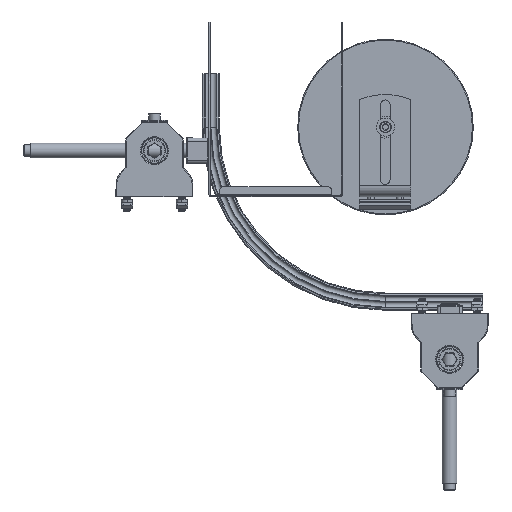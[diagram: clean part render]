
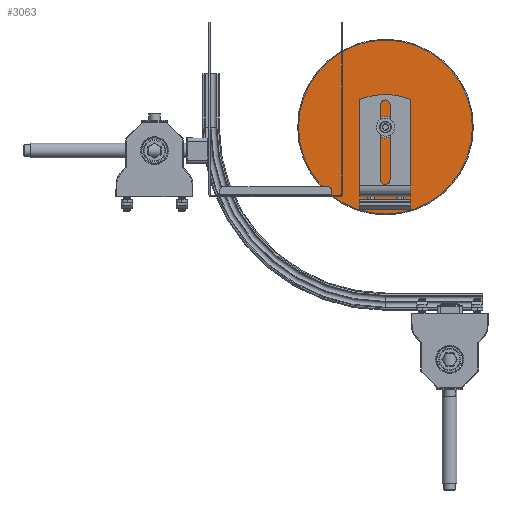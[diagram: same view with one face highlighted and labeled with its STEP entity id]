
A CAD part, front view. The second image highlights one B-rep face of the part: STEP entity #3063.
In plain terms, the highlighted planar face has unit normal (0, -1, 0) as drawn and (0, 1, 0) by its records, which use the part's own axes.
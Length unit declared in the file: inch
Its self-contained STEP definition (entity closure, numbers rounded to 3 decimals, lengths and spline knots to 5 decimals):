
#2894=CARTESIAN_POINT('',(0.,0.405,0.));
#2895=DIRECTION('',(0.,1.,0.));
#2896=DIRECTION('',(0.,0.,1.));
#2897=AXIS2_PLACEMENT_3D('',#2894,#2895,#2896);
#2899=CARTESIAN_POINT('',(0.,0.405,0.));
#2900=DIRECTION('',(0.,1.,0.));
#2901=DIRECTION('',(0.,0.,-1.));
#2902=AXIS2_PLACEMENT_3D('',#2899,#2900,#2901);
#2904=CARTESIAN_POINT('',(0.,0.405,0.));
#2905=DIRECTION('',(0.,-1.,0.));
#2906=DIRECTION('',(0.,0.,-1.));
#2907=AXIS2_PLACEMENT_3D('',#2904,#2905,#2906);
#2909=CARTESIAN_POINT('',(0.,0.405,0.));
#2910=DIRECTION('',(0.,-1.,0.));
#2911=DIRECTION('',(0.,0.,1.));
#2912=AXIS2_PLACEMENT_3D('',#2909,#2910,#2911);
#2926=CARTESIAN_POINT('',(0.,0.405,0.2525));
#2927=VERTEX_POINT('',#2926);
#2940=CARTESIAN_POINT('',(0.,0.405,2.97));
#2941=CARTESIAN_POINT('',(0.,0.405,-2.97));
#2942=VERTEX_POINT('',#2940);
#2943=VERTEX_POINT('',#2941);
#2944=CARTESIAN_POINT('',(0.,0.405,-0.2525));
#2945=VERTEX_POINT('',#2944);
#3048=CARTESIAN_POINT('',(0.,0.405,0.));
#3049=DIRECTION('',(0.,1.,0.));
#3050=DIRECTION('',(0.,0.,1.));
#3051=AXIS2_PLACEMENT_3D('',#3048,#3049,#3050);
#3052=PLANE('',#3051);
#3053=ORIENTED_EDGE('',*,*,#3028,.F.);
#3054=ORIENTED_EDGE('',*,*,#3041,.F.);
#3055=EDGE_LOOP('',(#3053,#3054));
#3056=FACE_OUTER_BOUND('',#3055,.F.);
#3058=ORIENTED_EDGE('',*,*,#3057,.F.);
#3060=ORIENTED_EDGE('',*,*,#3059,.F.);
#3061=EDGE_LOOP('',(#3058,#3060));
#3062=FACE_BOUND('',#3061,.F.);
#2898=CIRCLE('',#2897,2.97);
#2903=CIRCLE('',#2902,2.97);
#2908=CIRCLE('',#2907,0.2525);
#2913=CIRCLE('',#2912,0.2525);
#3028=EDGE_CURVE('',#2942,#2943,#2898,.T.);
#3041=EDGE_CURVE('',#2943,#2942,#2903,.T.);
#3057=EDGE_CURVE('',#2945,#2927,#2908,.T.);
#3059=EDGE_CURVE('',#2927,#2945,#2913,.T.);
#3063=ADVANCED_FACE('',(#3056,#3062),#3052,.T.);
